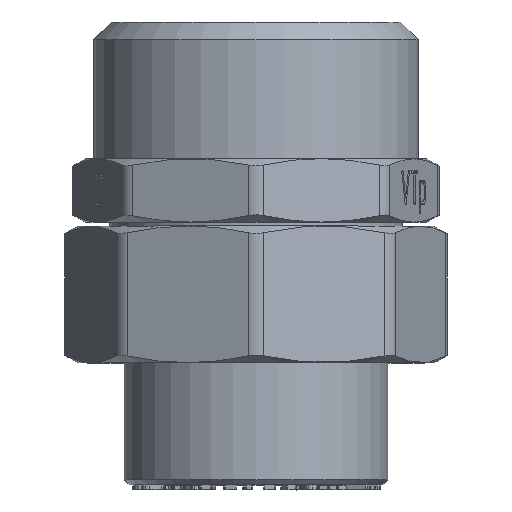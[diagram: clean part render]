
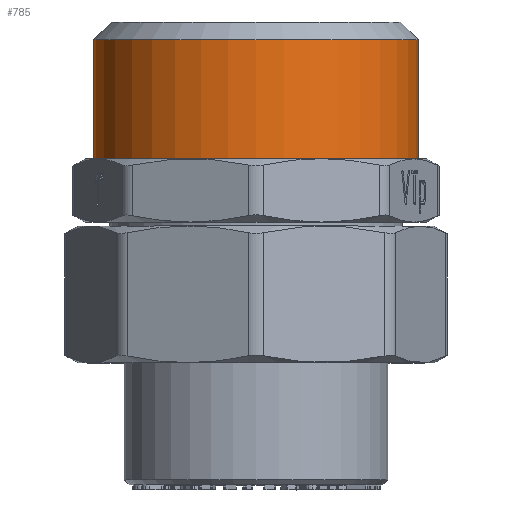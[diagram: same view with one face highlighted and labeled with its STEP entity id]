
A CAD part, top view. The second image highlights one B-rep face of the part: STEP entity #785.
In plain terms, the highlighted cylindrical face has radius 16.625 mm (diameter 33.249 mm), a full revolution.
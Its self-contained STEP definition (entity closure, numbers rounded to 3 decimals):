
#785=ADVANCED_FACE('',(#5580,#5582),#5584,.T.);
#5580=FACE_OUTER_BOUND('',#5581,.T.);
#5581=EDGE_LOOP('',(#11450));
#5582=FACE_OUTER_BOUND('',#5583,.T.);
#5583=EDGE_LOOP('',(#11451));
#5584=CYLINDRICAL_SURFACE('',#5585,16.625);
#5585=AXIS2_PLACEMENT_3D('',#5586,#5587,#5588);
#5586=CARTESIAN_POINT('',(0.,47.4,0.));
#5587=DIRECTION('',(0.,-1.,0.));
#5588=DIRECTION('',(1.,0.,0.));
#11450=ORIENTED_EDGE('',*,*,#14222,.T.);
#11451=ORIENTED_EDGE('',*,*,#14247,.F.);
#14222=EDGE_CURVE('',#17765,#17765,#17766,.T.);
#14247=EDGE_CURVE('',#17807,#17807,#17808,.T.);
#17765=VERTEX_POINT('',#26596);
#17766=CIRCLE('',#26597,16.625);
#17807=VERTEX_POINT('',#27234);
#17808=CIRCLE('',#27235,16.625);
#26596=CARTESIAN_POINT('',(16.625,45.6,0.));
#26597=AXIS2_PLACEMENT_3D('',#26598,#26599,#26600);
#26598=CARTESIAN_POINT('',(0.,45.6,0.));
#26599=DIRECTION('',(0.,-1.,0.));
#26600=DIRECTION('',(1.,0.,0.));
#27234=CARTESIAN_POINT('',(16.625,33.4,0.));
#27235=AXIS2_PLACEMENT_3D('',#27236,#27237,#27238);
#27236=CARTESIAN_POINT('',(0.,33.4,0.));
#27237=DIRECTION('',(0.,-1.,0.));
#27238=DIRECTION('',(1.,0.,0.));
